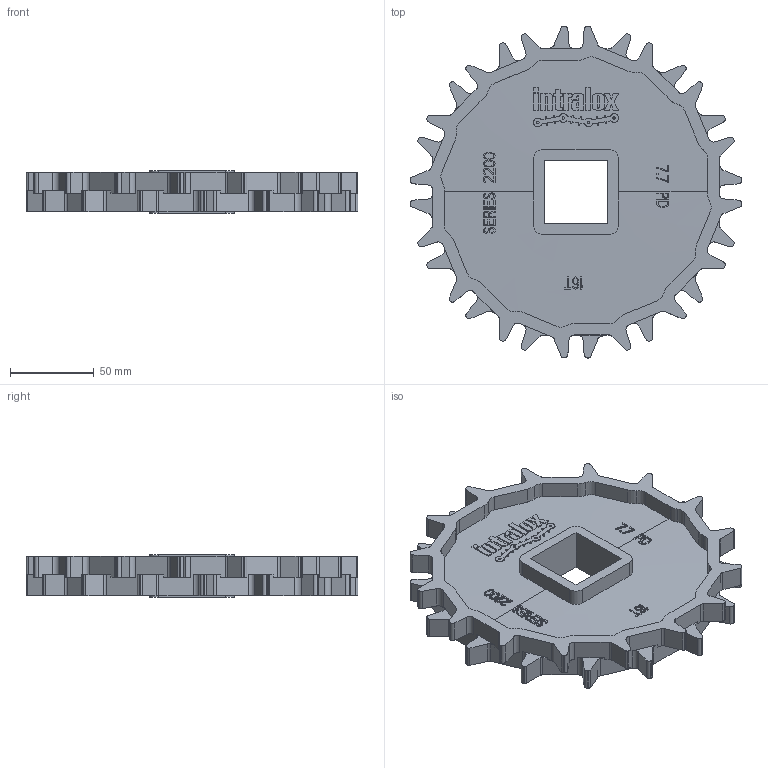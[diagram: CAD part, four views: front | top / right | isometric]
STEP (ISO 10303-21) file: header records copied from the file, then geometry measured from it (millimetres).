
FILE_DESCRIPTION((''),'2;1');
FILE_NAME('S2200_SPROCKET_77X15_40_SQ','2008-12-12T',('jmumphre'),(''),'PRO/ENGINEER BY PARAMETRIC TECHNOLOGY CORPORATION, 2008150','PRO/ENGINEER BY PARAMETRIC TECHNOLOGY CORPORATION, 2008150','');
FILE_SCHEMA(('CONFIG_CONTROL_DESIGN'));
Products named in the file (1): S2200_SPROCKET_77X15_40_SQ
Bounding box: 198.37 x 198.37 x 25.4 mm (x, y, z)
Volume: 238505.2 mm3; surface area: 88983.6 mm2
Topology: 1 solids, 1 shells, 1786 faces, 5108 edges, 3404 vertices
Faces by surface type: plane 1378, cylinder 380, cone 28
Entity records: 61960 total; most frequent: CARTESIAN_POINT 17542, ORIENTED_EDGE 10216, DIRECTION 7760, EDGE_CURVE 5108, VERTEX_POINT 3404, VECTOR 3172, LINE 3172, AXIS2_PLACEMENT_3D 2294
